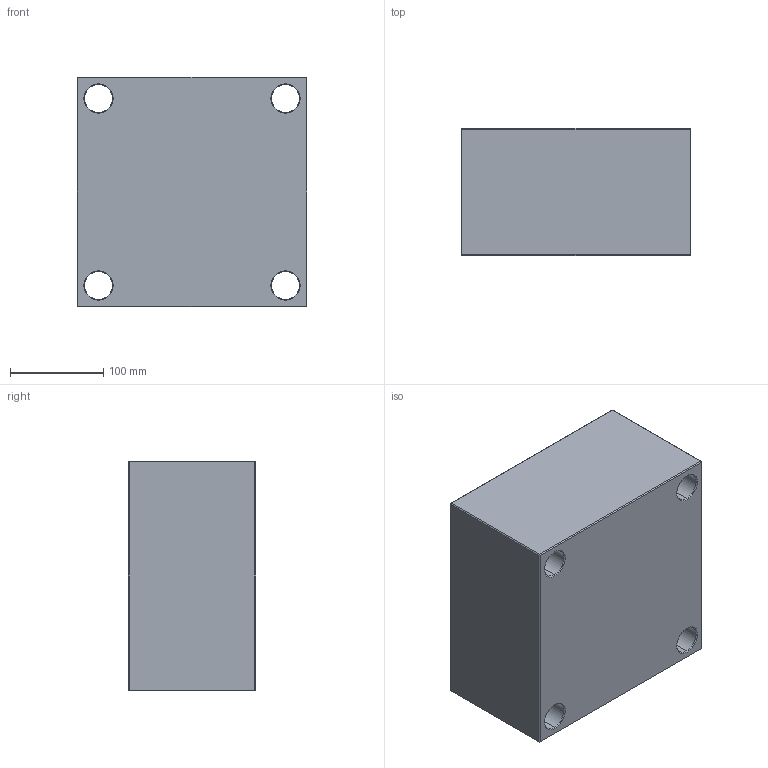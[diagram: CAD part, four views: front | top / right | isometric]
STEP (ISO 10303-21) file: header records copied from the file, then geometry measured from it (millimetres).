
FILE_DESCRIPTION (( 'STEP AP214' ), '1' );
FILE_NAME ('PCX-246x246x136.STEP', '2020-04-30T17:11:32', ( 'August' ), ( '' ), 'SwSTEP 2.0', 'SolidWorks 2018', '' );
FILE_SCHEMA (( 'AUTOMOTIVE_DESIGN' ));
Length unit declared in the file: millimetre
Products named in the file (1): PCX-246x246x136
Bounding box: 246 x 136 x 246 mm (x, y, z)
Volume: 7839722.6 mm3; surface area: 301783.4 mm2
Topology: 1 solids, 1 shells, 82 faces, 168 edges, 96 vertices
Faces by surface type: plane 34, cone 24, cylinder 24
Entity records: 2170 total; most frequent: DIRECTION 406, CARTESIAN_POINT 347, ORIENTED_EDGE 336, EDGE_CURVE 168, AXIS2_PLACEMENT_3D 155, EDGE_LOOP 98, VERTEX_POINT 96, LINE 96
